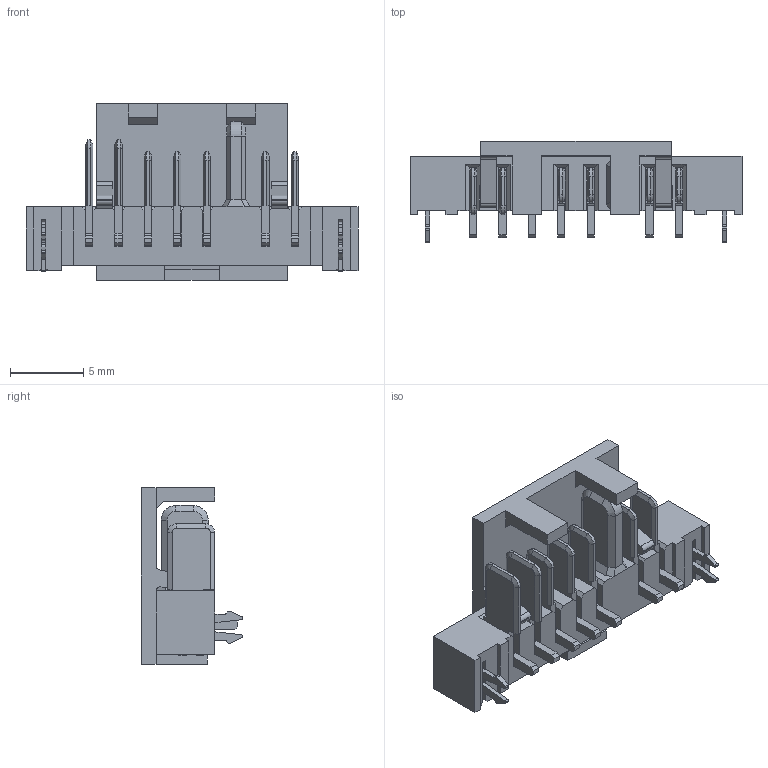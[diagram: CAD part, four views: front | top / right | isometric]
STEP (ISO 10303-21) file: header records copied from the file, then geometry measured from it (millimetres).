
FILE_DESCRIPTION((''),'2;1');
FILE_NAME('ASM0001_ASM','2011-04-12T',('12221915'),(''),'PRO/ENGINEER BY PARAMETRIC TECHNOLOGY CORPORATION, 2010100','PRO/ENGINEER BY PARAMETRIC TECHNOLOGY CORPORATION, 2010100','');
FILE_SCHEMA(('CONFIG_CONTROL_DESIGN'));
Length unit declared in the file: millimetre
Products named in the file (6): 4-H; TD; TA; F; C1; ASM0001_ASM
Assembly tree (11 placements, depth 2):
  ASM0001_ASM
    4-H
    TD  x2
    TA  x5
    F  x2
    C1
Bounding box: 22.6 x 6.9 x 12 mm (x, y, z)
Volume: 534.2 mm3; surface area: 1595.5 mm2
Topology: 11 solids, 11 shells, 700 faces, 1907 edges, 1230 vertices
Faces by surface type: plane 537, cylinder 131, cone 32
Entity records: 13288 total; most frequent: CARTESIAN_POINT 2334, ORIENTED_EDGE 2306, DIRECTION 2153, EDGE_CURVE 1153, VECTOR 1023, LINE 1023, VERTEX_POINT 746, AXIS2_PLACEMENT_3D 565
